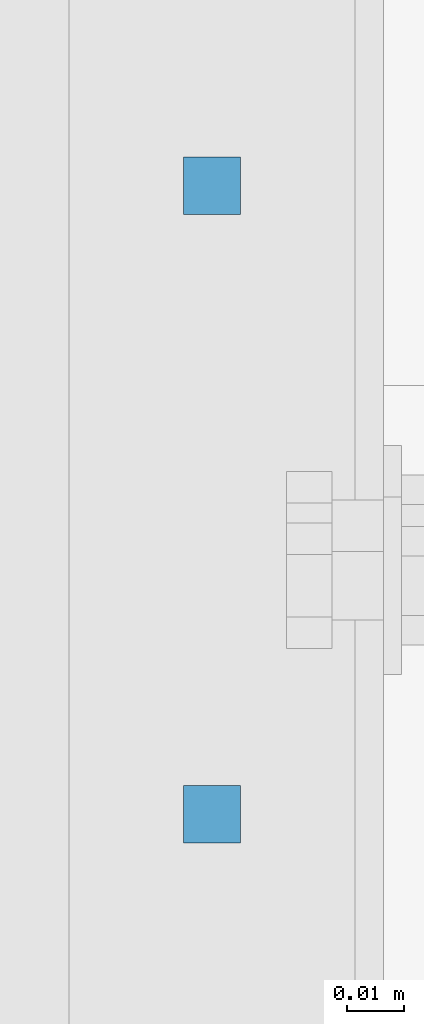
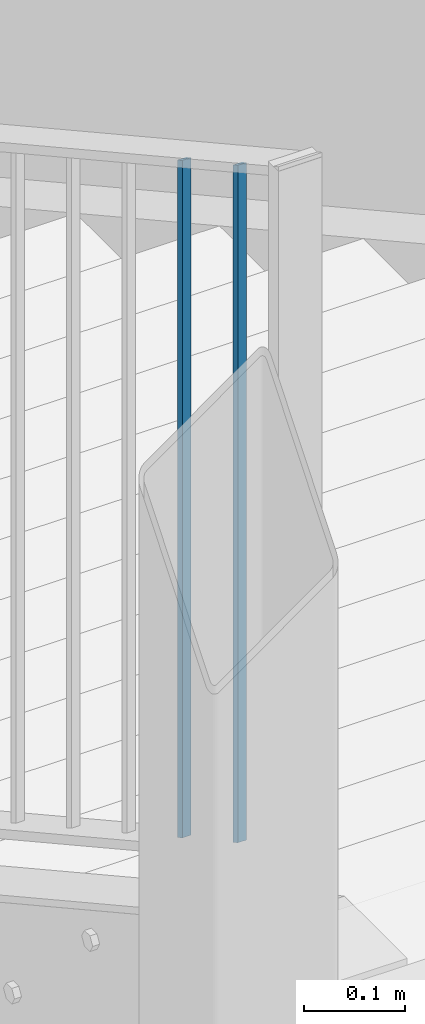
# One storey, part 37 of 78: 2 beams, 1 element without a shape of its own.
"""IFC2X3 building model written with IfcOpenShell, lengths in millimetres."""

import ifcopenshell
import ifcopenshell.guid

model = None  # the IFC model being written
_history = None  # IfcOwnerHistory: only IFC2X3 demands one
_inside = {}  # id of a spatial element -> (the spatial element, [elements in it])
_under = {}  # id of a project, library or spatial element -> (it, [spatial elements below it])
_declared = {}  # id of a project -> (the project, [libraries it declares])
_typed = {}  # id of a type object -> (the type object, [elements of that type])
_made_of = {}  # id of a material, layer set ... -> (it, [elements and type objects made of it])


def new_model(schema):
    """Start an empty IFC model of exactly this schema.

    Asked for "IFC4X3", IfcOpenShell would pick the latest addendum, in which some entities
    have other attributes; the version numbers below select the first issue.
    IFC2X3 requires an IfcOwnerHistory on every rooted entity: one is made here for all.
    """
    global model, _history
    if schema == "IFC4X3":
        model = ifcopenshell.file(schema_version=(4, 3, 0, 0))
    else:
        model = ifcopenshell.file(schema=schema)
    _inside.clear()
    _under.clear()
    _declared.clear()
    _typed.clear()
    _made_of.clear()
    _history = None
    if model.schema == "IFC2X3":
        org = make("IfcOrganization", Name="unknown")
        user = make(
            "IfcPersonAndOrganization",
            ThePerson=make("IfcPerson", FamilyName="unknown"),
            TheOrganization=org,
        )
        app = make(
            "IfcApplication",
            ApplicationDeveloper=org,
            Version="unknown",
            ApplicationFullName="unknown",
            ApplicationIdentifier="unknown",
        )
        _history = make(
            "IfcOwnerHistory",
            OwningUser=user,
            OwningApplication=app,
            ChangeAction="ADDED",
            CreationDate=0,
        )
    return model


def make(cls, **values):
    """One entity of the class cls with the attributes given. An attribute that is None is left unset."""
    return model.create_entity(
        cls, **{name: value for name, value in values.items() if value is not None}
    )


def rooted(cls, **values):
    """An entity with a GlobalId (a new one), such as an element, a storey or a relation."""
    return make(cls, GlobalId=ifcopenshell.guid.new(), OwnerHistory=_history, **values)


def si_unit(unit_type, name, prefix=None):
    """IfcSIUnit, for example si_unit("LENGTHUNIT", "METRE", prefix="MILLI")."""
    return make("IfcSIUnit", UnitType=unit_type, Prefix=prefix, Name=name)


def assignment(units):
    """IfcUnitAssignment: the units of a project."""
    return None if units is None else make("IfcUnitAssignment", Units=units)


def point(xyz):
    """IfcCartesianPoint."""
    return None if xyz is None else make("IfcCartesianPoint", Coordinates=xyz)


def direction(xyz):
    """IfcDirection."""
    return None if xyz is None else make("IfcDirection", DirectionRatios=xyz)


def frame(location, z_axis=None, x_axis=None):
    """IfcAxis2Placement3D, a coordinate frame: its origin and axes. An axis left out is left unset."""
    return make(
        "IfcAxis2Placement3D",
        Location=point(location),
        Axis=direction(z_axis),
        RefDirection=direction(x_axis),
    )


def frame_2d(location, x_axis=None):
    """IfcAxis2Placement2D, a coordinate frame in the plane: its origin and x axis."""
    return make(
        "IfcAxis2Placement2D", Location=point(location), RefDirection=direction(x_axis)
    )


def origin_with_axes():
    """The frame at (0, 0, 0) with the z axis (0, 0, 1) and the x axis (1, 0, 0) written out."""
    return frame((0.0, 0.0, 0.0), z_axis=(0.0, 0.0, 1.0), x_axis=(1.0, 0.0, 0.0))


def origin_2d_with_axis():
    """The frame at (0, 0) in the plane with the x axis (1, 0) written out."""
    return frame_2d((0.0, 0.0), x_axis=(1.0, 0.0))


def place(relative_to, where):
    """IfcLocalPlacement: puts the frame where relative to a parent placement (None: the world)."""
    return make(
        "IfcLocalPlacement", PlacementRelTo=relative_to, RelativePlacement=where
    )


def context(
    kind, dimensions, precision=None, world=None, true_north=None, identifier=None
):
    """IfcGeometricRepresentationContext, for example the 3D "Model" context."""
    return make(
        "IfcGeometricRepresentationContext",
        ContextIdentifier=identifier,
        ContextType=kind,
        CoordinateSpaceDimension=dimensions,
        Precision=precision,
        WorldCoordinateSystem=world,
        TrueNorth=true_north,
    )


def subcontext(parent, identifier, kind, view, scale=None):
    """IfcGeometricRepresentationSubContext, for example "Body" below "Model"."""
    return make(
        "IfcGeometricRepresentationSubContext",
        ContextIdentifier=identifier,
        ContextType=kind,
        ParentContext=parent,
        TargetScale=scale,
        TargetView=view,
    )


def project(units=None, contexts=None):
    """IfcProject with its units and contexts."""
    return rooted(
        "IfcProject",
        Name="project",
        RepresentationContexts=contexts,
        UnitsInContext=assignment(units),
    )


def spatial(cls, under=None, at=None, **own):
    """A site, building, storey or space (cls), placed at a placement, below another one or the project."""
    s = rooted(cls, ObjectPlacement=at, **own)
    if under is not None:
        _under.setdefault(under.id(), (under, []))[1].append(s)
    return s


def profile(cls, at=None, kind="AREA", **sizes):
    """A parametric profile (cls). Its sizes go by their IFC names, for example OverallWidth=200.0."""
    return make(cls, ProfileType=kind, Position=at, **sizes)


def rectangle(**sizes):
    """IfcRectangleProfileDef."""
    return profile("IfcRectangleProfileDef", **sizes)


def extrude(swept, where, along, depth):
    """IfcExtrudedAreaSolid: the profile swept, set in the frame where, extruded along a direction by depth."""
    return make(
        "IfcExtrudedAreaSolid",
        SweptArea=swept,
        Position=where,
        ExtrudedDirection=direction(along),
        Depth=depth,
    )


def clip(a, b, op="DIFFERENCE"):
    """IfcBooleanClippingResult: the solid a cut by the half space b."""
    return make(
        "IfcBooleanClippingResult", Operator=op, FirstOperand=a, SecondOperand=b
    )


def halfspace(plane, agree):
    """IfcHalfSpaceSolid: all space on one side of the plane z = 0 of the frame plane."""
    return make(
        "IfcHalfSpaceSolid",
        BaseSurface=make("IfcPlane", Position=plane),
        AgreementFlag=agree,
    )


def shape(context_of_items, identifier, shape_type, items):
    """IfcShapeRepresentation: the items that make up one representation, for example the "Body"."""
    return make(
        "IfcShapeRepresentation",
        ContextOfItems=context_of_items,
        RepresentationIdentifier=identifier,
        RepresentationType=shape_type,
        Items=items,
    )


def material(Name=None, Category=None):
    """IfcMaterial."""
    return make("IfcMaterial", Name=Name, Category=Category)


def made_of(thing, what):
    """Note that an element or type object is made of a material, layer set ...; save() writes the relation."""
    if what is not None:
        _made_of.setdefault(what.id(), (what, []))[1].append(thing)
    return thing


def type_object(cls, material=None, **own):
    """A type object (cls), such as IfcWallType, which elements share."""
    return made_of(rooted(cls, **own), material)


def element(
    cls,
    number,
    at=None,
    inside=None,
    cuts=None,
    type_object=None,
    material=None,
    context=None,
    identifier="Body",
    shape_type=None,
    held_by="IfcProductDefinitionShape",
    body=None,
    shapes=None,
    **own,
):
    """One element of the class cls, such as IfcWall. Its Tag is "e" and its number.

    at: its placement. inside: the storey or other place that contains it. cuts: it is an
    opening in that element (IfcRelVoidsElement). A single representation is given by context,
    identifier, shape_type and body (its items); several are given by shapes. held_by: the class
    of the entity that holds the representations. save() writes the other relations.
    """
    e = rooted(cls, Tag="e%d" % number, ObjectPlacement=at, **own)
    if body is not None:
        shapes = [shape(context, identifier, shape_type, body)]
    if shapes is not None:
        e.Representation = make(held_by, Representations=shapes)
    if inside is not None:
        _inside.setdefault(inside.id(), (inside, []))[1].append(e)
    if cuts is not None:
        rooted(
            "IfcRelVoidsElement", RelatingBuildingElement=cuts, RelatedOpeningElement=e
        )
    if type_object is not None:
        _typed.setdefault(type_object.id(), (type_object, []))[1].append(e)
    return made_of(e, material)


def aggregate(whole, parts):
    """IfcRelAggregates: a whole, such as a stair, and the parts it consists of."""
    return rooted("IfcRelAggregates", RelatingObject=whole, RelatedObjects=parts)


def save(model, path):
    """Write the relations noted so far, then the file.

    IfcRelAggregates (storeys below a building ...), IfcRelContainedInSpatialStructure (elements
    in a storey), IfcRelDefinesByType, IfcRelAssociatesMaterial and IfcRelDeclares: one each for
    every whole, place, type object, material and project.
    """
    for whole, parts in _under.values():
        aggregate(whole, parts)
    for where, things in _inside.values():
        rooted(
            "IfcRelContainedInSpatialStructure",
            RelatedElements=things,
            RelatingStructure=where,
        )
    for kind, things in _typed.values():
        rooted("IfcRelDefinesByType", RelatedObjects=things, RelatingType=kind)
    for what, things in _made_of.values():
        rooted("IfcRelAssociatesMaterial", RelatedObjects=things, RelatingMaterial=what)
    for by, libraries in _declared.values():
        rooted("IfcRelDeclares", RelatingContext=by, RelatedDefinitions=libraries)
    model.write(path)


model = new_model("IFC2X3")

# Units and contexts
model_context = context("Model", 3, precision=1e-05, world=origin_with_axes())
body_context = subcontext(model_context, "Body", "Model", "MODEL_VIEW")
ifc_project = project(units=[si_unit("LENGTHUNIT", "METRE", prefix="MILLI"), si_unit("AREAUNIT", "SQUARE_METRE"), si_unit("VOLUMEUNIT", "CUBIC_METRE"), si_unit("MASSUNIT", "GRAM", prefix="KILO"), si_unit("TIMEUNIT", "SECOND"), si_unit("PLANEANGLEUNIT", "RADIAN"), si_unit("SOLIDANGLEUNIT", "STERADIAN"), si_unit("THERMODYNAMICTEMPERATUREUNIT", "DEGREE_CELSIUS"), si_unit("LUMINOUSINTENSITYUNIT", "LUMEN")], contexts=[model_context])

# Site, building, storey
site_placement = place(None, origin_with_axes())
site = spatial("IfcSite", under=ifc_project, at=site_placement, Name="Site", CompositionType="ELEMENT")
building_placement = place(site_placement, origin_with_axes())
building = spatial("IfcBuilding", under=site, at=building_placement, Name="Undefined", CompositionType="ELEMENT")
storey_placement = place(building_placement, origin_with_axes())
storey = spatial("IfcBuildingStorey", under=building, at=storey_placement, Name="Undefined", CompositionType="ELEMENT", Elevation=0.0)

# Assembly, beams
assembly_placement = place(storey_placement, origin_with_axes())
assembly = element("IfcElementAssembly", 1, at=assembly_placement, inside=storey, Name="MAIN_COURANTE", AssemblyPlace="NOTDEFINED", PredefinedType="RIGID_FRAME")
ifc_material = material(Name="STEEL/S235JR")
beam_type = type_object("IfcBeamType", Name="PL10*10", PredefinedType="NOTDEFINED")
beam_1_placement = place(assembly_placement, frame((-33012.8599999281, 4257.99999993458, 160778.274663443), z_axis=(1.0, 0.0, 0.0), x_axis=(0.0, 0.0, -1.0)))
beam_1 = element("IfcBeam", 2, at=beam_1_placement, type_object=beam_type, material=ifc_material, Name="LISSE", ObjectType="PL10*10", context=body_context, shape_type="Clipping", body=[
    clip(clip(extrude(rectangle(XDim=10.0, YDim=10.0, at=origin_2d_with_axis()), frame((831.449999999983, 0.0, 0.0), z_axis=(-1.0, 0.0, 0.0), x_axis=(0.0, -1.0, 0.0)), (0.0, 0.0, 1.0), 831.45), halfspace(frame((825.737291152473, 9.09494701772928e-13, 1005.0), z_axis=(0.875241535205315, -0.48368611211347, 0.0), x_axis=(0.48368611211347, 0.875241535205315, 0.0)), False)), halfspace(frame((5.71270869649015, 9.09494701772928e-13, 1005.0), z_axis=(-0.875241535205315, 0.483686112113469, 0.0), x_axis=(-0.483686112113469, -0.875241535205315, 0.0)), False)),
])
beam_2_placement = place(assembly_placement, frame((-33012.8599999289, 4367.99999993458, 160717.485189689), z_axis=(1.0, 0.0, 0.0), x_axis=(0.0, 0.0, -1.0)))
beam_2 = element("IfcBeam", 3, at=beam_2_placement, type_object=beam_type, material=ifc_material, Name="LISSE", ObjectType="PL10*10", context=body_context, shape_type="Clipping", body=[
    clip(clip(extrude(rectangle(XDim=10.0, YDim=10.0, at=origin_2d_with_axis()), frame((831.449999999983, 0.0, 0.0), z_axis=(-1.0, 0.0, 0.0), x_axis=(0.0, -1.0, 0.0)), (0.0, 0.0, 1.0), 831.45), halfspace(frame((825.737291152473, 9.09494701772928e-13, 1005.0), z_axis=(0.875241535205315, -0.48368611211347, 0.0), x_axis=(0.48368611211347, 0.875241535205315, 0.0)), False)), halfspace(frame((5.71270869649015, 9.09494701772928e-13, 1005.0), z_axis=(-0.875241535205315, 0.483686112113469, 0.0), x_axis=(-0.483686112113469, -0.875241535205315, 0.0)), False)),
])
aggregate(assembly, [beam_1, beam_2])

save(model, "model.ifc")
